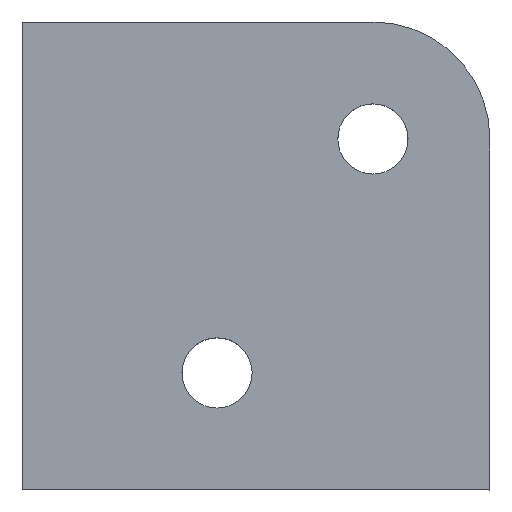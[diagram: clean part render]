
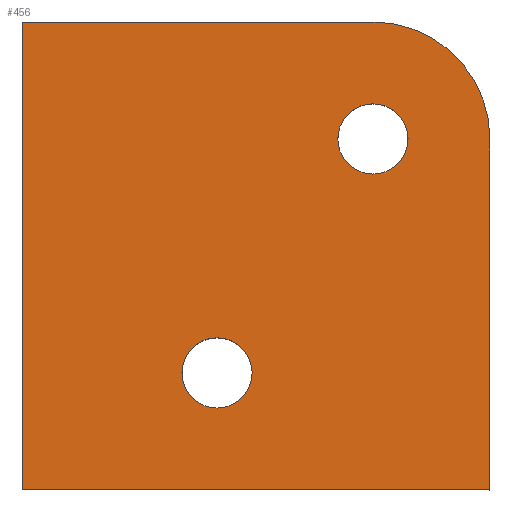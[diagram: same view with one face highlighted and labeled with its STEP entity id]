
A CAD part, top view. The second image highlights one B-rep face of the part: STEP entity #456.
In plain terms, the highlighted planar face has unit normal (0, 0, 1).
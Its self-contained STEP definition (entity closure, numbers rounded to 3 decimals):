
#215=CIRCLE('',#436,15.);
#216=CIRCLE('',#437,4.5);
#217=CIRCLE('',#438,4.5);
#229=ORIENTED_EDGE('',*,*,#302,.F.);
#230=ORIENTED_EDGE('',*,*,#306,.T.);
#231=ORIENTED_EDGE('',*,*,#307,.F.);
#232=ORIENTED_EDGE('',*,*,#308,.T.);
#233=ORIENTED_EDGE('',*,*,#303,.F.);
#234=ORIENTED_EDGE('',*,*,#309,.F.);
#235=ORIENTED_EDGE('',*,*,#310,.F.);
#262=VECTOR('',#353,1.);
#263=VECTOR('',#356,1.);
#266=VECTOR('',#363,1.);
#267=VECTOR('',#364,1.);
#275=LINE('',#399,#262);
#276=LINE('',#402,#263);
#279=LINE('',#410,#266);
#280=LINE('',#411,#267);
#286=VERTEX_POINT('',#393);
#288=VERTEX_POINT('',#397);
#289=VERTEX_POINT('',#401);
#291=VERTEX_POINT('',#407);
#292=VERTEX_POINT('',#409);
#293=VERTEX_POINT('',#412);
#294=VERTEX_POINT('',#414);
#302=EDGE_CURVE('',#288,#286,#275,.T.);
#303=EDGE_CURVE('',#286,#289,#276,.T.);
#306=EDGE_CURVE('',#288,#291,#215,.T.);
#307=EDGE_CURVE('',#292,#291,#279,.T.);
#308=EDGE_CURVE('',#292,#289,#280,.T.);
#309=EDGE_CURVE('',#293,#293,#216,.T.);
#310=EDGE_CURVE('',#294,#294,#217,.T.);
#320=EDGE_LOOP('',(#229,#230,#231,#232,#233));
#321=EDGE_LOOP('',(#234));
#322=EDGE_LOOP('',(#235));
#335=FACE_BOUND('',#320,.T.);
#336=FACE_BOUND('',#321,.T.);
#337=FACE_BOUND('',#322,.T.);
#353=DIRECTION('',(0.,-45.,0.));
#356=DIRECTION('',(-60.,0.,0.));
#359=DIRECTION('',(0.,0.,1.));
#360=DIRECTION('',(0.,-1.,0.));
#361=DIRECTION('',(0.,0.,1.));
#362=DIRECTION('',(15.,0.,0.));
#363=DIRECTION('',(45.,0.,0.));
#364=DIRECTION('',(0.,-60.,0.));
#365=DIRECTION('',(0.,0.,1.));
#366=DIRECTION('',(0.,-4.5,0.));
#367=DIRECTION('',(0.,0.,1.));
#368=DIRECTION('',(0.,-4.5,0.));
#393=CARTESIAN_POINT('',(6142.004,12946.36,8.));
#397=CARTESIAN_POINT('',(6142.004,12991.36,8.));
#399=CARTESIAN_POINT('',(6142.004,12991.36,8.));
#401=CARTESIAN_POINT('',(6082.004,12946.36,8.));
#402=CARTESIAN_POINT('',(6142.004,12946.36,8.));
#406=CARTESIAN_POINT('',(0.,0.,8.));
#407=CARTESIAN_POINT('',(6127.004,13006.36,8.));
#408=CARTESIAN_POINT('',(6127.004,12991.36,8.));
#409=CARTESIAN_POINT('',(6082.004,13006.36,8.));
#410=CARTESIAN_POINT('',(6082.004,13006.36,8.));
#411=CARTESIAN_POINT('',(6082.004,13006.36,8.));
#412=CARTESIAN_POINT('',(6127.004,12986.86,8.));
#413=CARTESIAN_POINT('',(6127.004,12991.36,8.));
#414=CARTESIAN_POINT('',(6107.004,12956.86,8.));
#415=CARTESIAN_POINT('',(6107.004,12961.36,8.));
#435=AXIS2_PLACEMENT_3D('',#406,#359,#360);
#436=AXIS2_PLACEMENT_3D('',#408,#361,#362);
#437=AXIS2_PLACEMENT_3D('',#413,#365,#366);
#438=AXIS2_PLACEMENT_3D('',#415,#367,#368);
#450=PLANE('',#435);
#456=ADVANCED_FACE('',(#335,#336,#337),#450,.T.);
